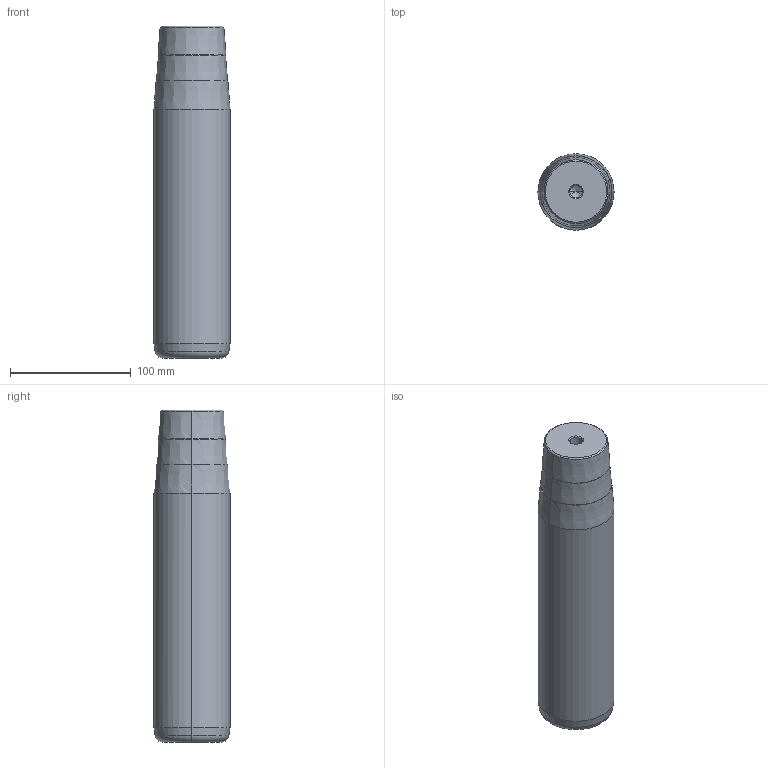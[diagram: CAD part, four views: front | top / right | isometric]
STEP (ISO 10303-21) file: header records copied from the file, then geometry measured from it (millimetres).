
FILE_DESCRIPTION(('CATIA V5 STEP Exchange'),'2;1');
FILE_NAME('C:\Users\Utente\Desktop\IO LAVORO\3D X SITO CF\X SITO\722\722-63x224x275.stp','2021-01-07T19:23:59+00:00',('none'),('none'),'CATIA Version 5 Release 20 GA (IN-10)','CATIA V5 STEP AP203','none');
FILE_SCHEMA(('CONFIG_CONTROL_DESIGN'));
Length unit declared in the file: millimetre
Products named in the file (1): 722-63x224x275
Bounding box: 63 x 63 x 275 mm (x, y, z)
Volume: 815453.4 mm3; surface area: 59676.5 mm2
Topology: 1 solids, 1 shells, 32 faces, 66 edges, 34 vertices
Faces by surface type: cone 22, cylinder 6, plane 2, torus 2
Entity records: 878 total; most frequent: CARTESIAN_POINT 203, ORIENTED_EDGE 124, DIRECTION 122, AXIS2_PLACEMENT_3D 63, EDGE_CURVE 62, EDGE_LOOP 34, VERTEX_POINT 34, ADVANCED_FACE 32
